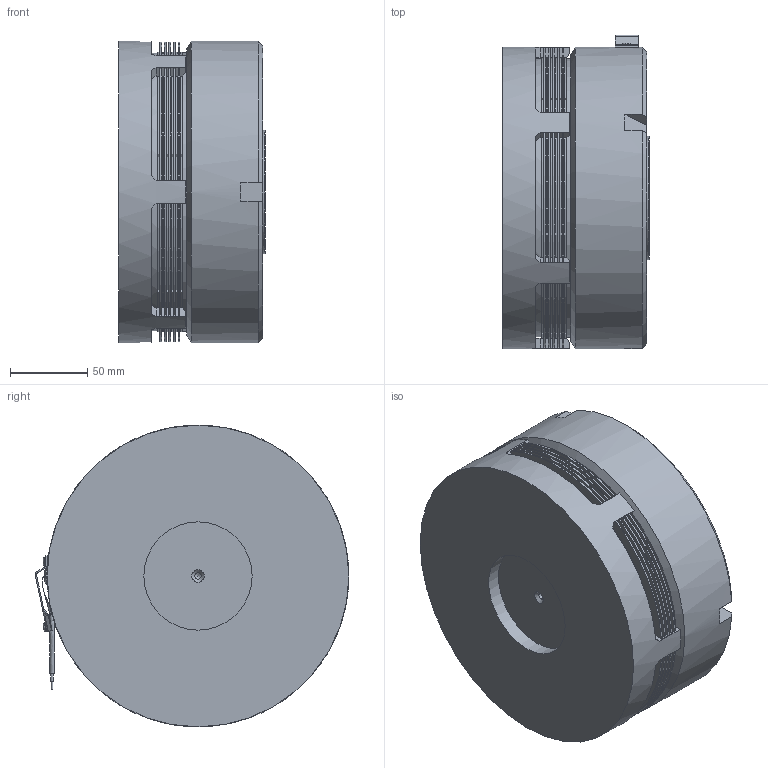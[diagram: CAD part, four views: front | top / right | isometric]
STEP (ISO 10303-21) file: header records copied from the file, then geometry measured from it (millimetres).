
FILE_DESCRIPTION(/* description */ (''),/* implementation_level */ '2;1');
FILE_NAME(/* name */ '\\Srv-tecnico\DATI\UFFICIO TECNICO\ARCHIVIO INVENTOR\DISEGNI\UFFICIO TECNICO\05_Friz_Elettromagnetiche_Lamellari\05_05 ESB_S\05_05_195_01 ESB195_S\05_05_195_01 ESB195_S@STEP.stp',/* time_stamp */ '2015-07-27T08:41:52+02:00',/* author */ ('stefano'),/* organization */ (''),/* preprocessor_version */ 'ST-DEVELOPER v15.6',/* originating_system */ 'Autodesk Inventor 2015',/* authorisation */ '');
FILE_SCHEMA (('AUTOMOTIVE_DESIGN { 1 0 10303 214 3 1 1 }'));
Products named in the file (1): 05_05_195_01 ESB195_S_Substitute_1
Bounding box: 94.5 x 202.74 x 195 mm (x, y, z)
Volume: 1940042.2 mm3; surface area: 708301.6 mm2
Topology: 14 solids, 14 shells, 2539 faces, 7526 edges, 4946 vertices
Faces by surface type: cylinder 1894, plane 544, cone 88, bspline 10, torus 3
Full cylindrical faces by diameter (mm): 1.067 x2, 1.8 x2, 2 x2, 3 x2, 4 x7, 5.6 x2, 6 x2, 9 x1, 9.5 x1, 11 x1, 70 x1, 78 x1, 80 x2, 92 x1, 96 x1, 100 x1, 114.5 x1, 115 x1, 124.75 x1, 125 x2, 129 x1, 135 x1, 147 x1, 153 x1, 175 x1, 180 x2, 180.5 x1, 182.25 x1, 195 x2
Entity records: 90730 total; most frequent: DIRECTION 16789, CARTESIAN_POINT 16780, ORIENTED_EDGE 14914, EDGE_CURVE 7452, AXIS2_PLACEMENT_3D 7000, VERTEX_POINT 4927, CIRCLE 4443, EDGE_LOOP 2793
